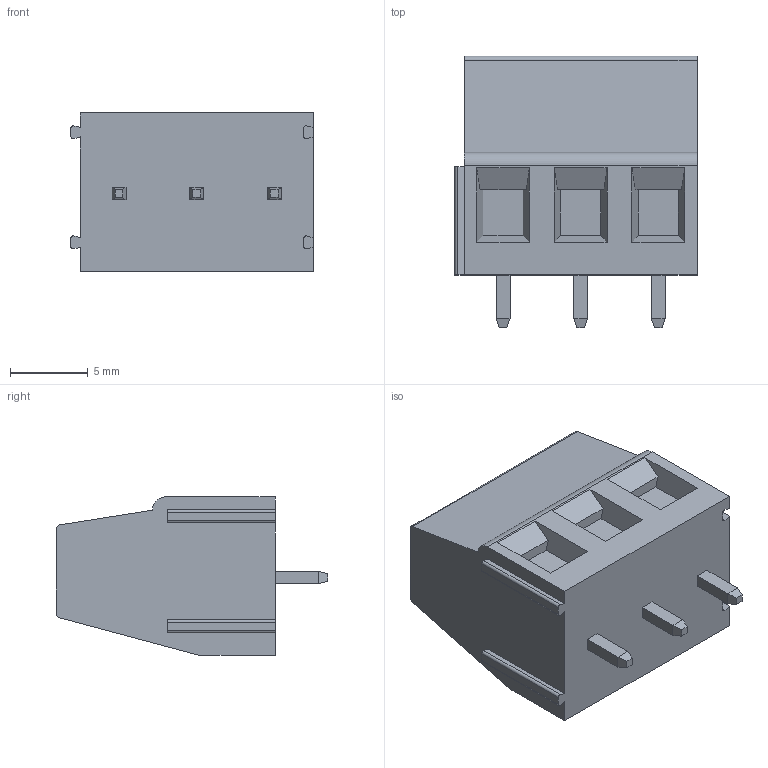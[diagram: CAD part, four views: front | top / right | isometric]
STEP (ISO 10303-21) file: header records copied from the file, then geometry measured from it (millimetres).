
FILE_DESCRIPTION (( 'STEP AP203' ), '1' );
FILE_NAME ('BR203.STEP', '2020-02-20T03:53:39', ( '' ), ( '' ), 'SwSTEP 2.0', 'SolidWorks 2019', '' );
FILE_SCHEMA (( 'CONFIG_CONTROL_DESIGN' ));
Length unit declared in the file: millimetre
Products named in the file (1): BR203
Bounding box: 15.6 x 17.5 x 10.2 mm (x, y, z)
Volume: 1728.7 mm3; surface area: 1313.1 mm2
Topology: 1 solids, 4 shells, 246 faces, 631 edges, 402 vertices
Faces by surface type: plane 169, cylinder 41, cone 18, torus 12, bspline 6
Entity records: 7604 total; most frequent: CARTESIAN_POINT 1556, ORIENTED_EDGE 1262, DIRECTION 1199, EDGE_CURVE 631, VECTOR 469, LINE 469, VERTEX_POINT 402, AXIS2_PLACEMENT_3D 365
